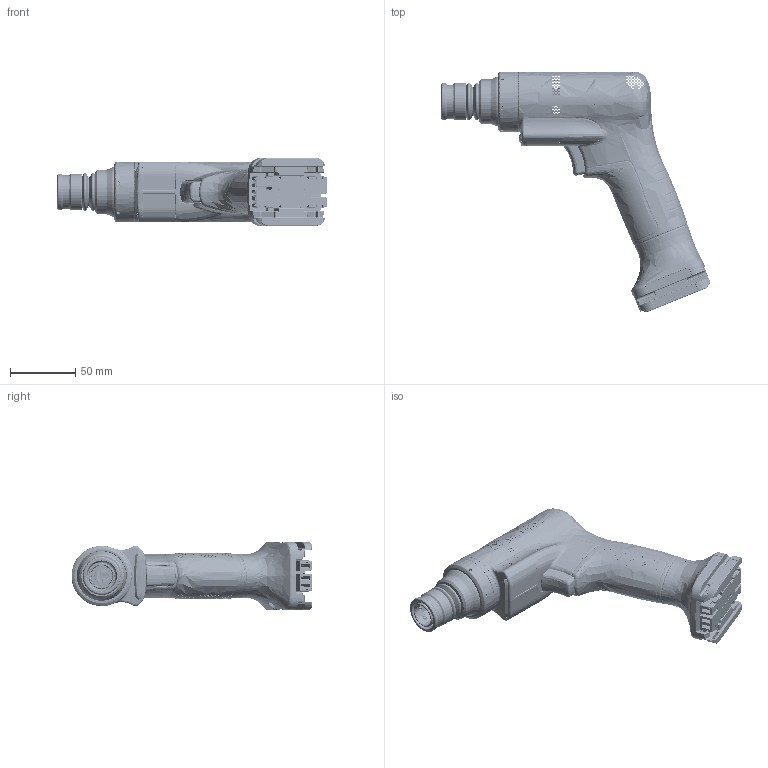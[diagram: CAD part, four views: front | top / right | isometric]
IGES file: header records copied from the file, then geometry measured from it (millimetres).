
Start section:  PTC IGES file: 6151762910_dim.igs
Global section: file name: 6151762910_dim.igs; native system: Creo Parametric by PTC Inc.; preprocessor: 2019080; author: gre_svc_itools; organization: Unknown; date: 20210217.075519; units: millimetre
Bounding box: 205.92 x 184.36 x 52 mm (x, y, z)
Surface area: 119238.2 mm2 (no closed solid volume)
Topology: 0 solids, 0 shells, 7350 faces, 39610 edges, 39578 vertices
Faces by surface type: bspline 5360, revolution 1812, extrusion 178
